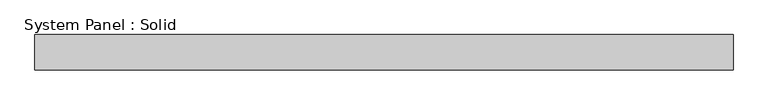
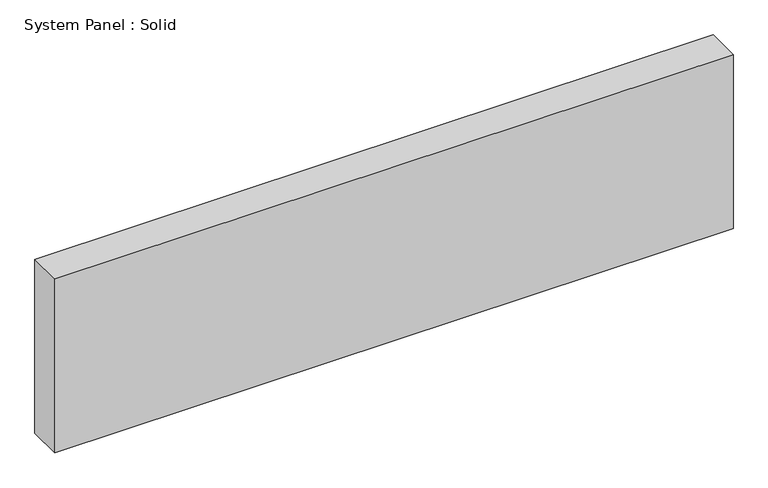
"""IFC4 building model written with IfcOpenShell, lengths in millimetres: plate geometry, System Panel : Solid."""

from ifc_helpers import new_model, si_unit, origin, origin_with_axes, place, context, project, spatial, polyline, outline, extrude, source, transform, mapped, element, save


def system_panel_solid_9e3d8ea0(model_context):
    return source(origin(), model_context, "Body", "SweptSolid", [
        extrude(outline(polyline([(628.3695429, -19.05), (-628.3695429, -19.05), (-628.3695429, 44.45), (628.3695429, 44.45), (628.3695429, -19.05)])), origin_with_axes(), (0.0, 0.0, 1.0), 341.0388226),
    ])


if __name__ == "__main__":
    model = new_model("IFC4")
    model_context = context("Model", 3, world=origin())
    ifc_project = project(units=[si_unit("LENGTHUNIT", "METRE", prefix="MILLI")], contexts=[model_context])
    site = spatial("IfcSite", under=ifc_project)
    building = spatial("IfcBuilding", under=site)
    placement = place(None, origin())
    system_panel_solid_shape = system_panel_solid_9e3d8ea0(model_context)
    element("IfcPlate", 1, ObjectType="System Panel : Solid", at=placement, inside=building, context=model_context, shape_type="MappedRepresentation", body=[
        mapped(system_panel_solid_shape, transform((0.0, 0.0, 0.0), x_axis=(1.0, 0.0, 0.0), y_axis=(0.0, 1.0, 0.0), z_axis=(0.0, 0.0, 1.0))),
    ])
    save(model, "model.ifc")
